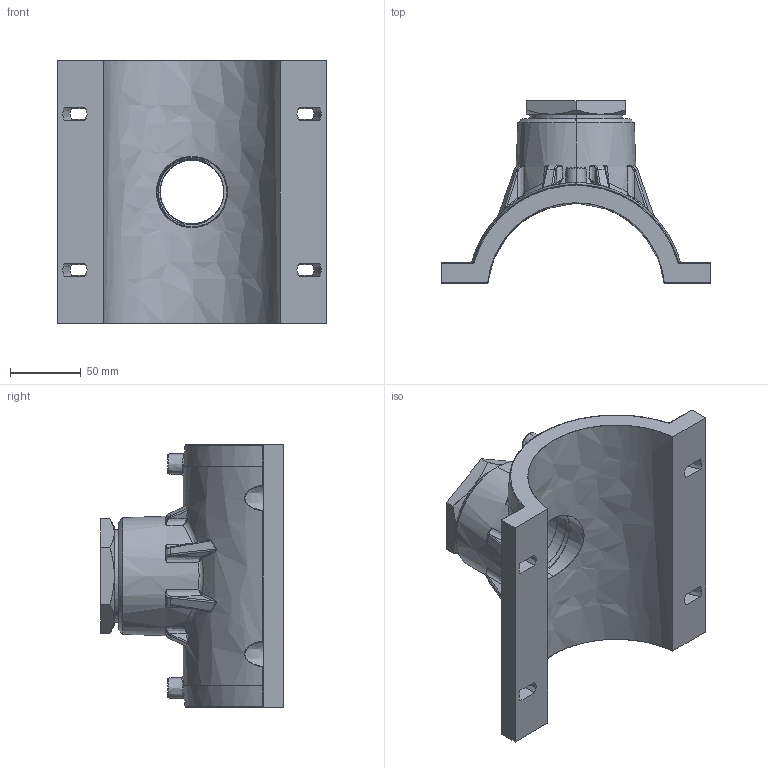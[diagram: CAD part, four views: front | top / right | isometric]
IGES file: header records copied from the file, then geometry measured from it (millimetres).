
Start section:  PTC IGES file: vam-rg_d125_1_1_2_01.igs
Global section: file name: vam-rg_d125_1_1_2_01.igs; native system: Pro/ENGINEER by Parametric Technology Corporation; preprocessor: 2011490; author: mtunjic; organization: Unknown; date: 20130909.105400; units: millimetre
Bounding box: 190 x 128.5 x 185 mm (x, y, z)
Surface area: 137498.7 mm2 (no closed solid volume)
Topology: 0 solids, 0 shells, 482 faces, 2394 edges, 2394 vertices
Faces by surface type: bspline 482
